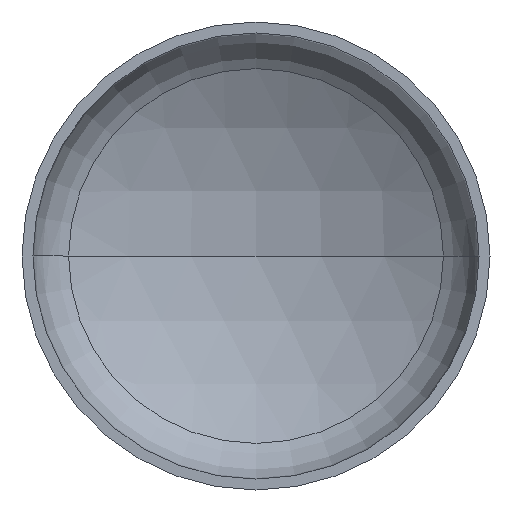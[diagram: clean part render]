
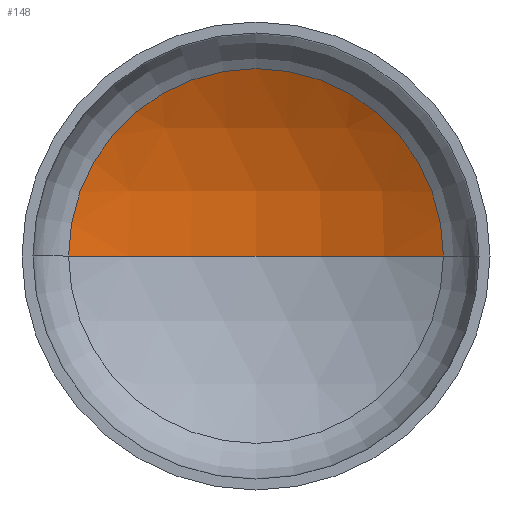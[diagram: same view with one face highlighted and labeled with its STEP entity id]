
A CAD part, front view. The second image highlights one B-rep face of the part: STEP entity #148.
In plain terms, the highlighted spherical face has radius 1440 mm.
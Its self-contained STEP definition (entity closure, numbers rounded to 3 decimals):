
#9 = AXIS2_PLACEMENT_3D ( 'NONE', #77, #125, #127 ) ;
#10 = AXIS2_PLACEMENT_3D ( 'NONE', #399, #257, #373 ) ;
#18 = AXIS2_PLACEMENT_3D ( 'NONE', #140, #385, #394 ) ;
#35 = AXIS2_PLACEMENT_3D ( 'NONE', #267, #171, #158 ) ;
#41 = FACE_OUTER_BOUND ( 'NONE', #345, .T. ) ;
#77 = CARTESIAN_POINT ( 'NONE',  ( 0., -878.631, 0. ) ) ;
#83 = ORIENTED_EDGE ( 'NONE', *, *, #336, .T. ) ;
#100 = CIRCLE ( 'NONE', #10, 720.618 ) ;
#108 = CIRCLE ( 'NONE', #18, 1440. ) ;
#125 = DIRECTION ( 'NONE',  ( 0., 0., -1. ) ) ;
#126 = VERTEX_POINT ( 'NONE', #172 ) ;
#127 = DIRECTION ( 'NONE',  ( -1., 0., 0. ) ) ;
#137 = SPHERICAL_SURFACE ( 'NONE', #35, 1440. ) ;
#140 = CARTESIAN_POINT ( 'NONE',  ( 0., -878.631, 0. ) ) ;
#148 = ADVANCED_FACE ( 'NONE', ( #41 ), #137, .F. ) ;
#158 = DIRECTION ( 'NONE',  ( -1., 0., 0. ) ) ;
#162 = CARTESIAN_POINT ( 'NONE',  ( 0., 561.369, 0. ) ) ;
#166 = CARTESIAN_POINT ( 'NONE',  ( 720.618, 368.089, 0. ) ) ;
#171 = DIRECTION ( 'NONE',  ( 0., 0., -1. ) ) ;
#172 = CARTESIAN_POINT ( 'NONE',  ( -720.618, 368.089, 0. ) ) ;
#177 = VERTEX_POINT ( 'NONE', #162 ) ;
#188 = CIRCLE ( 'NONE', #9, 1440. ) ;
#232 = ORIENTED_EDGE ( 'NONE', *, *, #335, .T. ) ;
#257 = DIRECTION ( 'NONE',  ( 0., -1., 0. ) ) ;
#267 = CARTESIAN_POINT ( 'NONE',  ( 0., -878.631, 0. ) ) ;
#273 = ORIENTED_EDGE ( 'NONE', *, *, #324, .F. ) ;
#304 = VERTEX_POINT ( 'NONE', #166 ) ;
#324 = EDGE_CURVE ( 'NONE', #177, #126, #108, .T. ) ;
#335 = EDGE_CURVE ( 'NONE', #304, #126, #100, .T. ) ;
#336 = EDGE_CURVE ( 'NONE', #177, #304, #188, .T. ) ;
#345 = EDGE_LOOP ( 'NONE', ( #273, #83, #232 ) ) ;
#373 = DIRECTION ( 'NONE',  ( 1., 0., 0. ) ) ;
#385 = DIRECTION ( 'NONE',  ( 0., 0., 1. ) ) ;
#394 = DIRECTION ( 'NONE',  ( 1., 0., 0. ) ) ;
#399 = CARTESIAN_POINT ( 'NONE',  ( 0., 368.089, 0. ) ) ;
